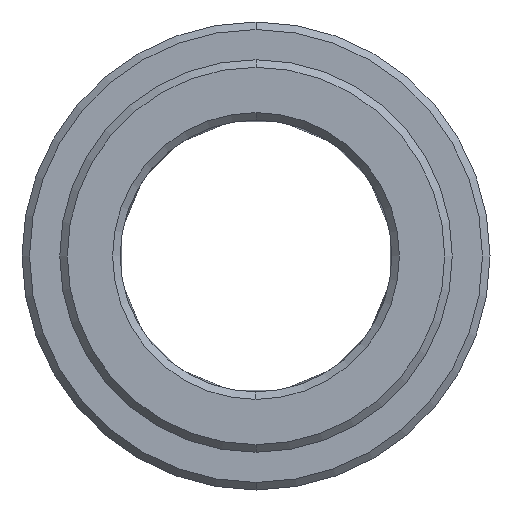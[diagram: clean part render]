
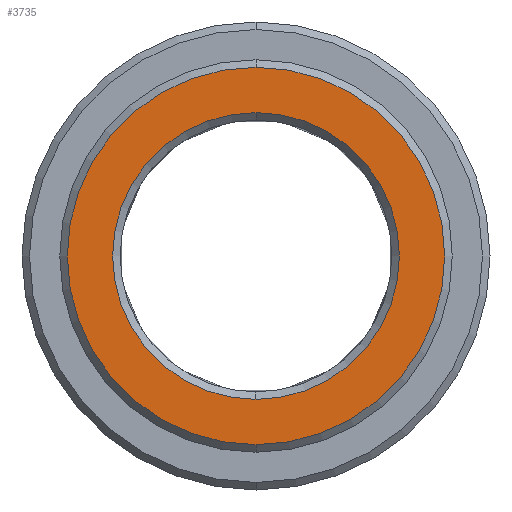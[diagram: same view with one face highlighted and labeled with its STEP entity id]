
A CAD part, left-side view. The second image highlights one B-rep face of the part: STEP entity #3735.
In plain terms, the highlighted planar face has unit normal (-1, 0, 0).
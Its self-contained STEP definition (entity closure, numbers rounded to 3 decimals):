
#2298=CARTESIAN_POINT('',(-8.,0.,0.));
#2299=DIRECTION('',(1.,0.,0.));
#2300=DIRECTION('',(0.,0.,1.));
#2301=AXIS2_PLACEMENT_3D('',#2298,#2299,#2300);
#2303=CARTESIAN_POINT('',(-8.,0.,
0.));
#2304=DIRECTION('',(1.,0.,0.));
#2305=DIRECTION('',(0.,0.,-1.));
#2306=AXIS2_PLACEMENT_3D('',#2303,#2304,#2305);
#2308=CARTESIAN_POINT('',(-8.,0.,0.));
#2309=DIRECTION('',(1.,0.,0.));
#2310=DIRECTION('',(0.,0.,1.));
#2311=AXIS2_PLACEMENT_3D('',#2308,#2309,#2310);
#2313=CARTESIAN_POINT('',(-8.,0.,0.));
#2314=DIRECTION('',(1.,0.,0.));
#2315=DIRECTION('',(0.,0.,-1.));
#2316=AXIS2_PLACEMENT_3D('',#2313,#2314,#2315);
#2498=CARTESIAN_POINT('',(-8.,0.,9.5));
#2499=CARTESIAN_POINT('',(-8.,0.,-9.5));
#2500=VERTEX_POINT('',#2498);
#2501=VERTEX_POINT('',#2499);
#2506=CARTESIAN_POINT('',(-8.,0.,12.5));
#2507=CARTESIAN_POINT('',(-8.,0.,-12.5));
#2508=VERTEX_POINT('',#2506);
#2509=VERTEX_POINT('',#2507);
#3720=CARTESIAN_POINT('',(-8.,0.,0.));
#3721=DIRECTION('',(1.,0.,0.));
#3722=DIRECTION('',(0.,0.,1.));
#3723=AXIS2_PLACEMENT_3D('',#3720,#3721,#3722);
#3724=PLANE('',#3723);
#3725=ORIENTED_EDGE('',*,*,#3687,.T.);
#3726=ORIENTED_EDGE('',*,*,#3702,.T.);
#3727=EDGE_LOOP('',(#3725,#3726));
#3728=FACE_OUTER_BOUND('',#3727,.F.);
#3730=ORIENTED_EDGE('',*,*,#3729,.F.);
#3732=ORIENTED_EDGE('',*,*,#3731,.F.);
#3733=EDGE_LOOP('',(#3730,#3732));
#3734=FACE_BOUND('',#3733,.F.);
#3735=ADVANCED_FACE('',(#3728,#3734),#3724,.F.);
#2302=CIRCLE('',#2301,12.5);
#2307=CIRCLE('',#2306,12.5);
#2312=CIRCLE('',#2311,9.5);
#2317=CIRCLE('',#2316,9.5);
#3687=EDGE_CURVE('',#2508,#2509,#2302,.T.);
#3702=EDGE_CURVE('',#2509,#2508,#2307,.T.);
#3729=EDGE_CURVE('',#2500,#2501,#2312,.T.);
#3731=EDGE_CURVE('',#2501,#2500,#2317,.T.);
